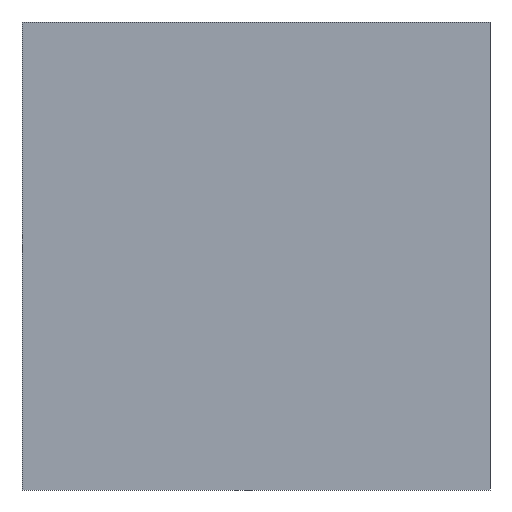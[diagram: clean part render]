
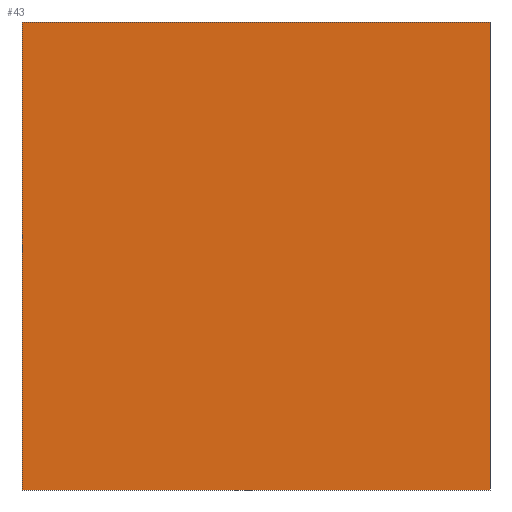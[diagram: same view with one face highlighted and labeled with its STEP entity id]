
A CAD part, front view. The second image highlights one B-rep face of the part: STEP entity #43.
In plain terms, the highlighted planar face has unit normal (0, -1, 0).
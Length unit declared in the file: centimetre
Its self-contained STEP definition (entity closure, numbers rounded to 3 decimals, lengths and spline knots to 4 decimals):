
#2 = EDGE_CURVE ( 'NONE', #374, #342, #503, .T. ) ;
#5 = CARTESIAN_POINT ( 'NONE',  ( 0., 0., 1000. ) ) ;
#16 = VECTOR ( 'NONE', #389, 100. ) ;
#32 = CARTESIAN_POINT ( 'NONE',  ( 1000., 0., 1000. ) ) ;
#34 = CARTESIAN_POINT ( 'NONE',  ( 0., 0., 1000. ) ) ;
#36 = EDGE_CURVE ( 'NONE', #91, #377, #436, .T. ) ;
#43 = ADVANCED_FACE ( 'NONE', ( #278 ), #114, .F. ) ;
#52 = CARTESIAN_POINT ( 'NONE',  ( 1000., 0., 0. ) ) ;
#53 = VECTOR ( 'NONE', #237, 100. ) ;
#91 = VERTEX_POINT ( 'NONE', #32 ) ;
#102 = ORIENTED_EDGE ( 'NONE', *, *, #349, .F. ) ;
#114 = PLANE ( 'NONE',  #458 ) ;
#126 = LINE ( 'NONE', #488, #364 ) ;
#139 = CARTESIAN_POINT ( 'NONE',  ( 0., 0., 1000. ) ) ;
#146 = DIRECTION ( 'NONE',  ( 0., 1., 0. ) ) ;
#184 = EDGE_LOOP ( 'NONE', ( #476, #426, #102, #256 ) ) ;
#187 = EDGE_CURVE ( 'NONE', #342, #377, #126, .T. ) ;
#194 = VECTOR ( 'NONE', #343, 100. ) ;
#237 = DIRECTION ( 'NONE',  ( 0., 0., -1. ) ) ;
#256 = ORIENTED_EDGE ( 'NONE', *, *, #2, .T. ) ;
#278 = FACE_OUTER_BOUND ( 'NONE', #184, .T. ) ;
#342 = VERTEX_POINT ( 'NONE', #363 ) ;
#343 = DIRECTION ( 'NONE',  ( 1., 0., 0. ) ) ;
#349 = EDGE_CURVE ( 'NONE', #374, #91, #382, .T. ) ;
#363 = CARTESIAN_POINT ( 'NONE',  ( 0., 0., 0. ) ) ;
#364 = VECTOR ( 'NONE', #531, 100. ) ;
#374 = VERTEX_POINT ( 'NONE', #139 ) ;
#377 = VERTEX_POINT ( 'NONE', #52 ) ;
#382 = LINE ( 'NONE', #462, #194 ) ;
#389 = DIRECTION ( 'NONE',  ( 0., 0., -1. ) ) ;
#426 = ORIENTED_EDGE ( 'NONE', *, *, #36, .F. ) ;
#436 = LINE ( 'NONE', #448, #53 ) ;
#448 = CARTESIAN_POINT ( 'NONE',  ( 1000., 0., 1000. ) ) ;
#458 = AXIS2_PLACEMENT_3D ( 'NONE', #34, #146, #485 ) ;
#462 = CARTESIAN_POINT ( 'NONE',  ( 0., 0., 1000. ) ) ;
#476 = ORIENTED_EDGE ( 'NONE', *, *, #187, .T. ) ;
#485 = DIRECTION ( 'NONE',  ( 0., 0., 1. ) ) ;
#488 = CARTESIAN_POINT ( 'NONE',  ( 0., 0., 0. ) ) ;
#503 = LINE ( 'NONE', #5, #16 ) ;
#531 = DIRECTION ( 'NONE',  ( 1., 0., 0. ) ) ;
